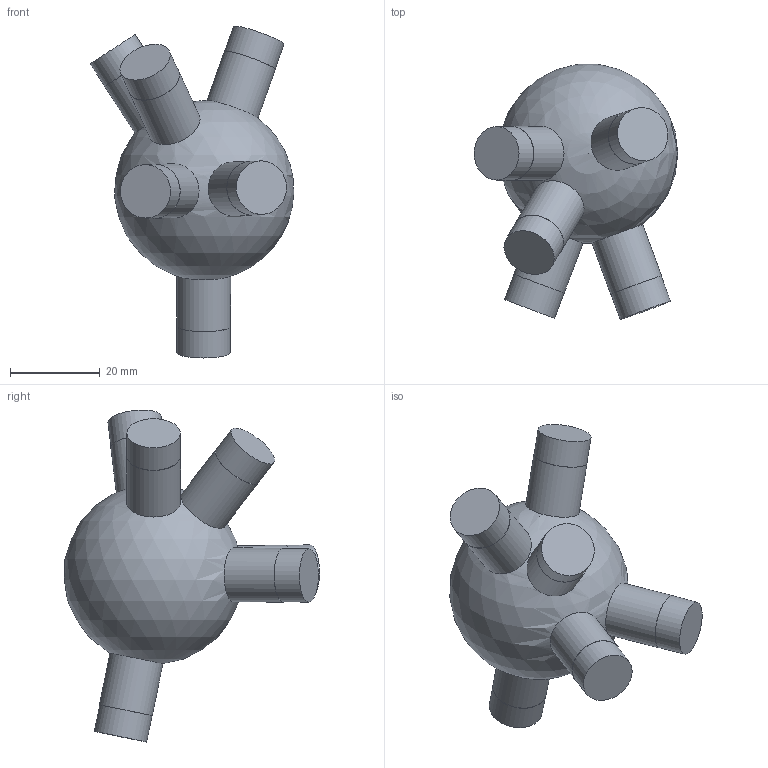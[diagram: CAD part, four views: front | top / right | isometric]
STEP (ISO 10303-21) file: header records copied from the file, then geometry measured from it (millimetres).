
FILE_DESCRIPTION(('Open CASCADE Model'),'2;1');
FILE_NAME('Open CASCADE Shape Model','2026-10-21T12:47:57',('Author'),( 'Open CASCADE'),'Open CASCADE STEP processor 7.9','Open CASCADE 7.9' ,'Unknown');
FILE_SCHEMA(('AUTOMOTIVE_DESIGN { 1 0 10303 214 1 1 1 1 }'));
Length unit declared in the file: millimetre
Products named in the file (1): Open CASCADE STEP translator 7.9 78
Bounding box: 45.33 x 56.79 x 73.9 mm (x, y, z)
Volume: 45478.5 mm3; surface area: 9116.2 mm2
Topology: 1 solids, 1 shells, 25 faces, 42 edges, 28 vertices
Faces by surface type: cylinder 12, plane 12, sphere 1
Full cylindrical faces by diameter (mm): 11.9 x6, 12 x6
Entity records: 1635 total; most frequent: CARTESIAN_POINT 687, DIRECTION 195, ORIENTED_EDGE 82, PCURVE 82, DEFINITIONAL_REPRESENTATION 82, LINE 67, VECTOR 67, AXIS2_PLACEMENT_3D 55
